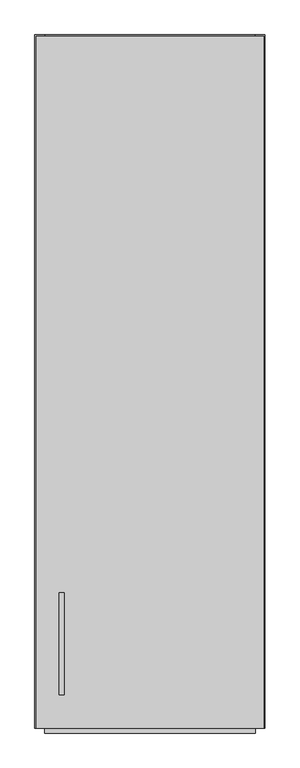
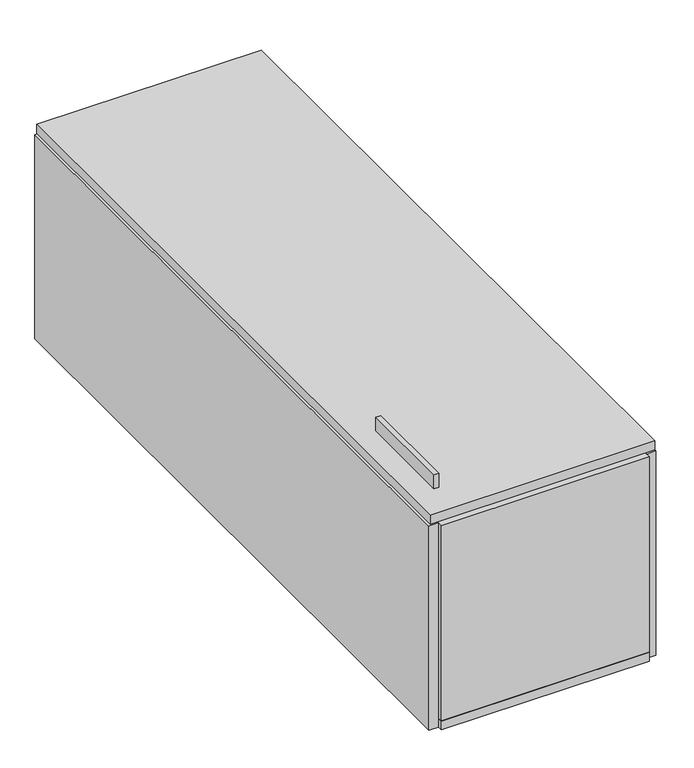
"""IFC4 building model written with IfcOpenShell, lengths in millimetres: proxy geometry, BASYS^OFFICE 1_WARDROBE-18x18x55-RIGHT END."""

from ifc_helpers import new_model, si_unit, frame, origin, origin_with_axes, place, context, project, spatial, polyline, outline, extrude, source, transform, mapped, element, save


def generic_models_ba3b5827(model_context):
    return source(origin(), model_context, "Body", "SweptSolid", [
        extrude(outline(polyline([(58.18125, 278.2), (58.18125, 76.2), (48.18125, 76.2), (48.18125, 278.2), (58.18125, 278.2)])), frame((0.0, 0.0, 457.2), z_axis=(0.0, 0.0, 1.0), x_axis=(1.0, 0.0, 0.0)), (0.0, 0.0, 1.0), 30.0),
        extrude(outline(polyline([(19.05, 9.525), (0.0, 9.525), (0.0, 1384.3), (19.05, 1384.3), (19.05, 9.525)])), origin_with_axes(), (0.0, 0.0, 1.0), 434.975),
        extrude(outline(polyline([(457.2, 9.525), (438.15, 9.525), (438.15, 1384.3), (457.2, 1384.3), (457.2, 9.525)])), origin_with_axes(), (0.0, 0.0, 1.0), 434.975),
        extrude(outline(polyline([(454.81875, 9.525), (2.38125, 9.525), (2.38125, 1381.91875), (454.81875, 1381.91875), (454.81875, 9.525)])), frame((0.0, 0.0, 438.15), z_axis=(0.0, 0.0, 1.0), x_axis=(1.0, 0.0, 0.0)), (0.0, 0.0, 1.0), 19.05),
        extrude(outline(polyline([(438.15, 1384.3), (438.15, 0.0), (19.05, 0.0), (19.05, 1384.3), (438.15, 1384.3)])), origin_with_axes(), (0.0, 0.0, 1.0), 19.05),
        extrude(outline(polyline([(438.15, 19.05), (438.15, 0.0), (19.05, 0.0), (19.05, 19.05), (438.15, 19.05)])), frame((0.0, 0.0, 19.05), z_axis=(0.0, 0.0, 1.0), x_axis=(1.0, 0.0, 0.0)), (0.0, 0.0, 1.0), 415.925),
        extrude(outline(polyline([(19.05, 1365.25), (19.05, 1384.3), (438.15, 1384.3), (438.15, 1365.25), (19.05, 1365.25)])), frame((0.0, 0.0, 19.05), z_axis=(0.0, 0.0, 1.0), x_axis=(1.0, 0.0, 0.0)), (0.0, 0.0, 1.0), 415.925),
    ])


if __name__ == "__main__":
    model = new_model("IFC4")
    model_context = context("Model", 3, world=origin())
    ifc_project = project(units=[si_unit("LENGTHUNIT", "METRE", prefix="MILLI")], contexts=[model_context])
    site = spatial("IfcSite", under=ifc_project)
    building = spatial("IfcBuilding", under=site)
    placement = place(None, origin())
    generic_models_shape = generic_models_ba3b5827(model_context)
    element("IfcBuildingElementProxy", 1, Name="BASYS^OFFICE 1_WARDROBE-18x18x55-RIGHT END", ObjectType="BASYS^OFFICE 1_WARDROBE-18x18x55-RIGHT END", at=placement, inside=building, context=model_context, shape_type="MappedRepresentation", body=[
        mapped(generic_models_shape, transform((0.0, 0.0, 0.0), x_axis=(1.0, 0.0, 0.0), y_axis=(0.0, 1.0, 0.0), z_axis=(0.0, 0.0, 1.0))),
    ])
    save(model, "model.ifc")
